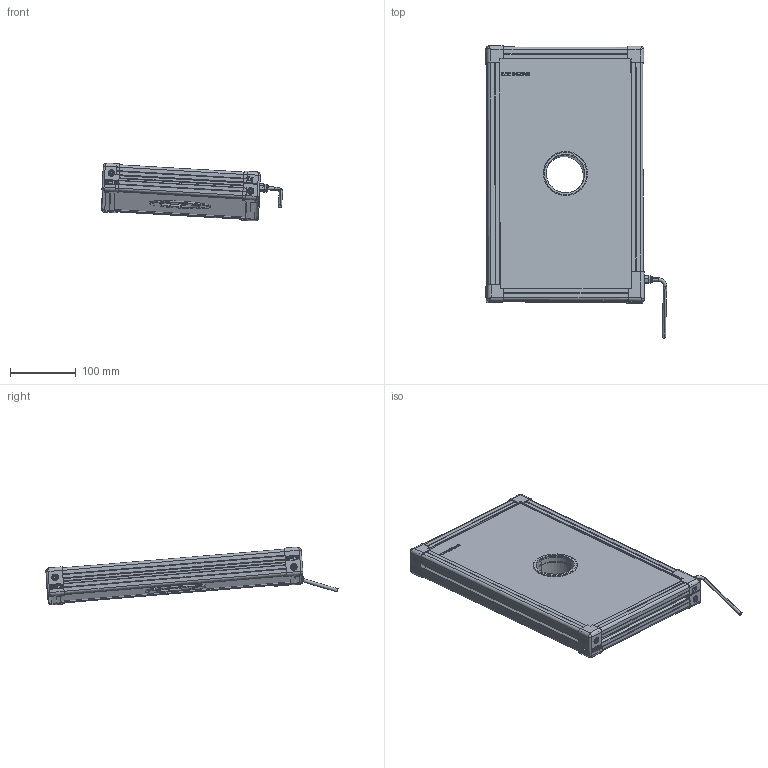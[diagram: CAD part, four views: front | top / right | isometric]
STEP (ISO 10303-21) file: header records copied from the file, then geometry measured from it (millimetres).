
FILE_DESCRIPTION (( 'STEP AP214' ), '1' );
FILE_NAME ('EFFI-BL-200-350-ZZZ-1M12.STEP', '2021-06-18T14:56:59', ( '' ), ( '' ), 'SwSTEP 2.0', 'SolidWorks 2021', '' );
FILE_SCHEMA (( 'AUTOMOTIVE_DESIGN' ));
Length unit declared in the file: millimetre
Products named in the file (13): 001037; cordon_Avec cable; Pièce13^EFFI-BL-XXX-YYY-ZZZ (1connecteur) Ø58.5; grande joue; 001038; petite joue + vis; profile X_PERCE; Assemblage Ø58.5; profile Y_PERCE; EFFI-BL-200-350-ZZZ-1M12; 000590; petite joue; 000629
Assembly tree (21 placements, depth 3):
  EFFI-BL-200-350-ZZZ-1M12
    profile X_PERCE  x2
    profile Y_PERCE  x2
    Pièce13^EFFI-BL-XXX-YYY-ZZZ (1connecteur) Ø58.5
    petite joue + vis  x3
      petite joue
      000629
    000629  x2
    grande joue
    Assemblage Ø58.5
      001037
      001038
      000590  x3
    cordon_Avec cable
Bounding box: 275.29 x 443.73 x 88.05 mm (x, y, z)
Volume: 3122339.7 mm3; surface area: 410902 mm2
Topology: 14 solids, 28 shells, 3840 faces, 10209 edges, 6692 vertices
Faces by surface type: plane 2371, cylinder 724, bspline 552, cone 150, torus 35, sphere 8
Entity records: 72881 total; most frequent: CARTESIAN_POINT 28442, ORIENTED_EDGE 9308, DIRECTION 7751, EDGE_CURVE 4658, LINE 3485, VECTOR 3485, VERTEX_POINT 3071, AXIS2_PLACEMENT_3D 2133
